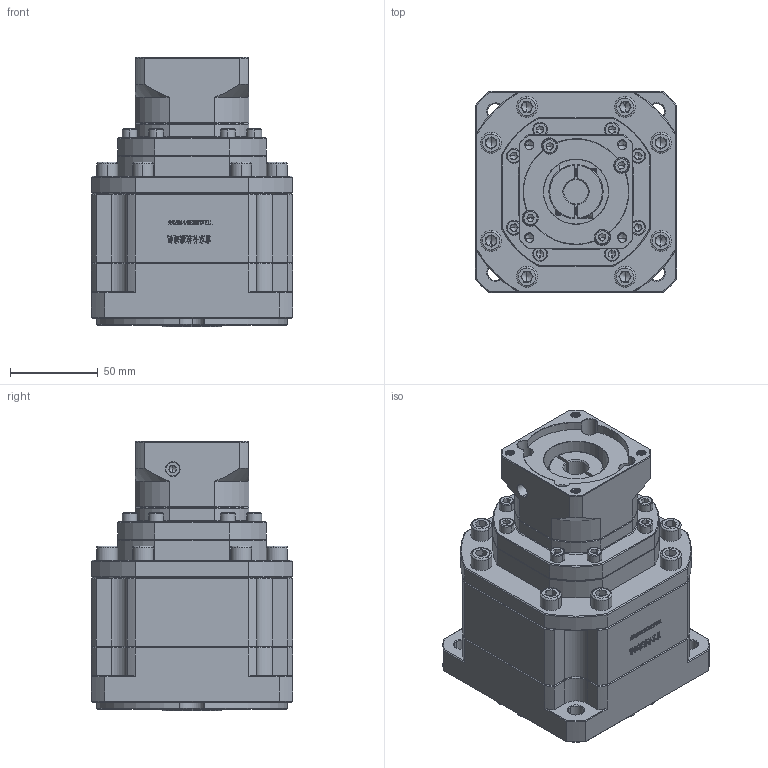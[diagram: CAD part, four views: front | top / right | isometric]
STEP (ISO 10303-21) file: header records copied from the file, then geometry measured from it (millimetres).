
FILE_DESCRIPTION (( 'STEP AP214' ), '1' );
FILE_NAME ('ZB115A-K25-L3-14-60-75-M6.step', '2023-03-03T09:59:00', ( '' ), ( 'Microsoft' ), 'SwSTEP 2.0', 'SolidWorks 2016', '' );
FILE_SCHEMA (( 'AUTOMOTIVE_DESIGN' ));
Length unit declared in the file: millimetre
Products named in the file (1): ZB115A-K25-L3-14-60-75-M6
Bounding box: 115 x 115 x 154 mm (x, y, z)
Volume: 1245811.7 mm3; surface area: 120104.5 mm2
Topology: 7 solids, 7 shells, 2230 faces, 5796 edges, 3671 vertices
Faces by surface type: plane 1119, cylinder 412, cone 341, bspline 336, torus 22
Entity records: 111622 total; most frequent: CARTESIAN_POINT 35088, ORIENTED_EDGE 11472, DIRECTION 9670, EDGE_CURVE 5736, VERTEX_POINT 3671, LINE 3616, VECTOR 3616, AXIS2_PLACEMENT_3D 3027
